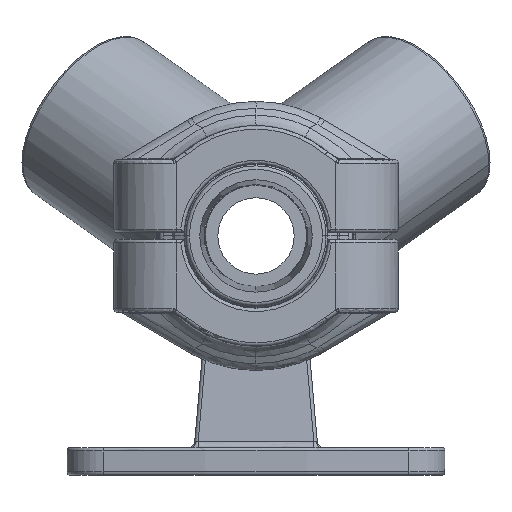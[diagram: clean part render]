
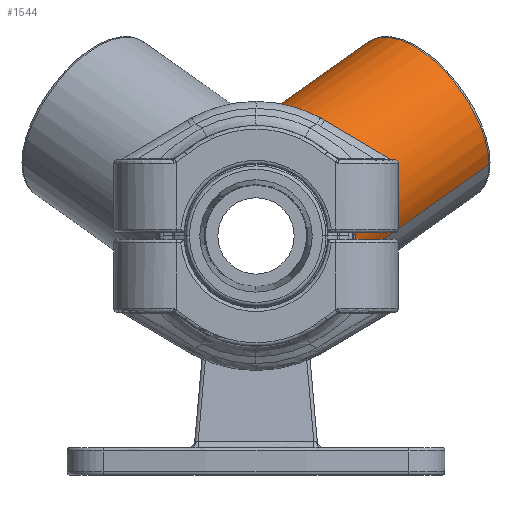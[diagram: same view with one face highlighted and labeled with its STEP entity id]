
A CAD part, left-side view. The second image highlights one B-rep face of the part: STEP entity #1544.
In plain terms, the highlighted cylindrical face has radius 13.5 mm (diameter 27 mm), a partial arc.
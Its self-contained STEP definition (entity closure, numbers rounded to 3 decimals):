
#399=B_SPLINE_CURVE_WITH_KNOTS('',3,(#11671,#11672,#11673,#11674,#11675),
 .UNSPECIFIED.,.F.,.F.,(4,1,4),(0.,0.5,1.),.UNSPECIFIED.);
#400=B_SPLINE_CURVE_WITH_KNOTS('',3,(#11677,#11678,#11679,#11680),.UNSPECIFIED.,
 .F.,.F.,(4,4),(0.,1.),.UNSPECIFIED.);
#401=B_SPLINE_CURVE_WITH_KNOTS('',3,(#11682,#11683,#11684,#11685,#11686,
#11687,#11688,#11689,#11690,#11691,#11692,#11693,#11694,#11695,#11696,#11697,
#11698,#11699,#11700,#11701,#11702,#11703,#11704,#11705,#11706,#11707,#11708,
#11709),.UNSPECIFIED.,.F.,.F.,(4,2,2,2,2,2,2,2,2,2,2,2,2,4),(0.,0.125,
0.188,0.219,0.25,0.375,
0.438,0.469,0.5,0.625,
0.688,0.719,0.75,1.),.UNSPECIFIED.);
#402=B_SPLINE_CURVE_WITH_KNOTS('',3,(#11711,#11712,#11713,#11714,#11715,
#11716,#11717,#11718,#11719,#11720,#11721,#11722,#11723,#11724,#11725,#11726,
#11727,#11728,#11729,#11730,#11731,#11732,#11733,#11734,#11735,#11736,#11737,
#11738,#11739,#11740,#11741),.UNSPECIFIED.,.F.,.F.,(4,2,2,2,2,2,2,2,2,2,
2,2,1,2,2,4),(0.,0.125,0.187,0.219,0.234,
0.25,0.375,0.437,0.469,
0.5,0.625,0.687,0.719,
0.734,0.75,1.),.UNSPECIFIED.);
#403=B_SPLINE_CURVE_WITH_KNOTS('',3,(#11743,#11744,#11745,#11746,#11747,
#11748,#11749,#11750,#11751,#11752),.UNSPECIFIED.,.F.,.F.,(4,2,2,2,4),(0.,
0.25,0.375,0.5,1.),.UNSPECIFIED.);
#844=CYLINDRICAL_SURFACE('',#8599,13.5);
#1028=FACE_OUTER_BOUND('',#2948,.T.);
#1544=ADVANCED_FACE('',(#1028),#844,.T.);
#2165=LINE('',#11565,#2518);
#2166=LINE('',#11669,#2519);
#2518=VECTOR('',#9540,1.);
#2519=VECTOR('',#9541,1.);
#2948=EDGE_LOOP('',(#3640,#3641,#3642,#3643,#3644,#3645,#3646,#3647));
#3640=ORIENTED_EDGE('',*,*,#6863,.T.);
#3641=ORIENTED_EDGE('',*,*,#6864,.T.);
#3642=ORIENTED_EDGE('',*,*,#6865,.T.);
#3643=ORIENTED_EDGE('',*,*,#6866,.T.);
#3644=ORIENTED_EDGE('',*,*,#6867,.T.);
#3645=ORIENTED_EDGE('',*,*,#6868,.T.);
#3646=ORIENTED_EDGE('',*,*,#6859,.T.);
#3647=ORIENTED_EDGE('',*,*,#6856,.F.);
#6078=VERTEX_POINT('',#11558);
#6079=VERTEX_POINT('',#11560);
#6080=VERTEX_POINT('',#11566);
#6083=VERTEX_POINT('',#11668);
#6084=VERTEX_POINT('',#11676);
#6085=VERTEX_POINT('',#11681);
#6086=VERTEX_POINT('',#11710);
#6087=VERTEX_POINT('',#11742);
#6856=EDGE_CURVE('',#6078,#6079,#8093,.T.);
#6859=EDGE_CURVE('',#6080,#6079,#2165,.T.);
#6863=EDGE_CURVE('',#6078,#6083,#2166,.T.);
#6864=EDGE_CURVE('',#6083,#6084,#399,.T.);
#6865=EDGE_CURVE('',#6084,#6085,#400,.T.);
#6866=EDGE_CURVE('',#6085,#6086,#401,.T.);
#6867=EDGE_CURVE('',#6086,#6087,#402,.T.);
#6868=EDGE_CURVE('',#6087,#6080,#403,.T.);
#8093=CIRCLE('',#8593,13.5);
#8593=AXIS2_PLACEMENT_3D('',#11559,#9530,#9531);
#8599=AXIS2_PLACEMENT_3D('',#11753,#9544,#9545);
#9530=DIRECTION('',(0.5,-0.707,0.5));
#9531=DIRECTION('',(0.5,0.707,0.5));
#9540=DIRECTION('',(0.5,-0.707,0.5));
#9541=DIRECTION('',(-0.5,0.707,-0.5));
#9544=DIRECTION('',(0.5,-0.707,0.5));
#9545=DIRECTION('',(0.5,0.707,0.5));
#11558=CARTESIAN_POINT('',(73.75,-14.496,23.75));
#11559=CARTESIAN_POINT('',(67.,-24.042,17.));
#11560=CARTESIAN_POINT('',(60.25,-33.588,10.25));
#11565=CARTESIAN_POINT('',(46.151,-13.649,-3.849));
#11566=CARTESIAN_POINT('',(46.151,-13.649,-3.849));
#11668=CARTESIAN_POINT('',(64.484,-1.392,14.484));
#11669=CARTESIAN_POINT('',(73.75,-14.496,23.75));
#11671=CARTESIAN_POINT('',(64.484,-1.392,14.484));
#11672=CARTESIAN_POINT('',(64.38,-1.318,14.484));
#11673=CARTESIAN_POINT('',(64.173,-1.172,14.482));
#11674=CARTESIAN_POINT('',(63.972,-1.032,14.478));
#11675=CARTESIAN_POINT('',(63.873,-0.963,14.476));
#11676=CARTESIAN_POINT('',(63.873,-0.963,14.476));
#11677=CARTESIAN_POINT('',(63.873,-0.963,14.476));
#11678=CARTESIAN_POINT('',(63.749,-0.877,14.473));
#11679=CARTESIAN_POINT('',(63.624,-0.791,14.469));
#11680=CARTESIAN_POINT('',(63.5,-0.707,14.465));
#11681=CARTESIAN_POINT('',(63.5,-0.707,14.465));
#11682=CARTESIAN_POINT('',(63.5,-0.707,14.465));
#11683=CARTESIAN_POINT('',(62.907,-0.704,14.975));
#11684=CARTESIAN_POINT('',(62.242,-0.698,15.416));
#11685=CARTESIAN_POINT('',(61.148,-0.684,15.96));
#11686=CARTESIAN_POINT('',(60.768,-0.679,16.121));
#11687=CARTESIAN_POINT('',(60.174,-0.669,16.332));
#11688=CARTESIAN_POINT('',(59.973,-0.666,16.397));
#11689=CARTESIAN_POINT('',(59.562,-0.658,16.517));
#11690=CARTESIAN_POINT('',(59.312,-0.654,16.581));
#11691=CARTESIAN_POINT('',(58.462,-0.637,16.778));
#11692=CARTESIAN_POINT('',(57.74,-0.621,16.88));
#11693=CARTESIAN_POINT('',(56.603,-0.594,16.944));
#11694=CARTESIAN_POINT('',(56.215,-0.585,16.95));
#11695=CARTESIAN_POINT('',(55.621,-0.57,16.935));
#11696=CARTESIAN_POINT('',(55.421,-0.564,16.926));
#11697=CARTESIAN_POINT('',(55.017,-0.553,16.9));
#11698=CARTESIAN_POINT('',(54.77,-0.547,16.879));
#11699=CARTESIAN_POINT('',(53.954,-0.524,16.796));
#11700=CARTESIAN_POINT('',(53.274,-0.504,16.687));
#11701=CARTESIAN_POINT('',(52.221,-0.471,16.452));
#11702=CARTESIAN_POINT('',(51.864,-0.46,16.363));
#11703=CARTESIAN_POINT('',(51.321,-0.443,16.209));
#11704=CARTESIAN_POINT('',(51.139,-0.437,16.155));
#11705=CARTESIAN_POINT('',(50.773,-0.424,16.041));
#11706=CARTESIAN_POINT('',(50.555,-0.417,15.969));
#11707=CARTESIAN_POINT('',(49.182,-0.371,15.498));
#11708=CARTESIAN_POINT('',(47.868,-0.323,14.924));
#11709=CARTESIAN_POINT('',(46.5,-0.269,14.156));
#11710=CARTESIAN_POINT('',(46.5,-0.269,14.156));
#11711=CARTESIAN_POINT('',(46.5,-0.269,14.156));
#11712=CARTESIAN_POINT('',(45.963,-1.241,14.17));
#11713=CARTESIAN_POINT('',(45.539,-2.122,14.081));
#11714=CARTESIAN_POINT('',(45.033,-3.263,13.889));
#11715=CARTESIAN_POINT('',(44.886,-3.614,13.814));
#11716=CARTESIAN_POINT('',(44.692,-4.094,13.697));
#11717=CARTESIAN_POINT('',(44.632,-4.246,13.657));
#11718=CARTESIAN_POINT('',(44.548,-4.463,13.596));
#11719=CARTESIAN_POINT('',(44.521,-4.533,13.575));
#11720=CARTESIAN_POINT('',(44.468,-4.67,13.535));
#11721=CARTESIAN_POINT('',(44.453,-4.708,13.523));
#11722=CARTESIAN_POINT('',(44.139,-5.536,13.261));
#11723=CARTESIAN_POINT('',(43.9,-6.235,12.971));
#11724=CARTESIAN_POINT('',(43.597,-7.221,12.47));
#11725=CARTESIAN_POINT('',(43.506,-7.539,12.292));
#11726=CARTESIAN_POINT('',(43.382,-7.999,12.011));
#11727=CARTESIAN_POINT('',(43.343,-8.15,11.914));
#11728=CARTESIAN_POINT('',(43.269,-8.445,11.718));
#11729=CARTESIAN_POINT('',(43.241,-8.557,11.641));
#11730=CARTESIAN_POINT('',(43.04,-9.429,11.009));
#11731=CARTESIAN_POINT('',(42.925,-10.074,10.439));
#11732=CARTESIAN_POINT('',(42.824,-10.948,9.509));
#11733=CARTESIAN_POINT('',(42.801,-11.224,9.186));
#11734=CARTESIAN_POINT('',(42.785,-11.613,8.684));
#11735=CARTESIAN_POINT('',(42.781,-11.801,8.43));
#11736=CARTESIAN_POINT('',(42.784,-11.98,8.169));
#11737=CARTESIAN_POINT('',(42.787,-12.097,7.994));
#11738=CARTESIAN_POINT('',(42.788,-12.127,7.949));
#11739=CARTESIAN_POINT('',(42.864,-13.554,5.703));
#11740=CARTESIAN_POINT('',(43.351,-14.373,3.05));
#11741=CARTESIAN_POINT('',(44.337,-14.328,0.256));
#11742=CARTESIAN_POINT('',(44.337,-14.328,0.256));
#11743=CARTESIAN_POINT('',(44.337,-14.328,0.256));
#11744=CARTESIAN_POINT('',(44.452,-14.322,-0.07));
#11745=CARTESIAN_POINT('',(44.576,-14.305,-0.406));
#11746=CARTESIAN_POINT('',(44.779,-14.26,-0.922));
#11747=CARTESIAN_POINT('',(44.85,-14.241,-1.096));
#11748=CARTESIAN_POINT('',(44.996,-14.197,-1.449));
#11749=CARTESIAN_POINT('',(45.089,-14.165,-1.666));
#11750=CARTESIAN_POINT('',(45.398,-14.049,-2.37));
#11751=CARTESIAN_POINT('',(45.721,-13.9,-3.063));
#11752=CARTESIAN_POINT('',(46.151,-13.649,-3.849));
#11753=CARTESIAN_POINT('',(50.,0.,0.));
